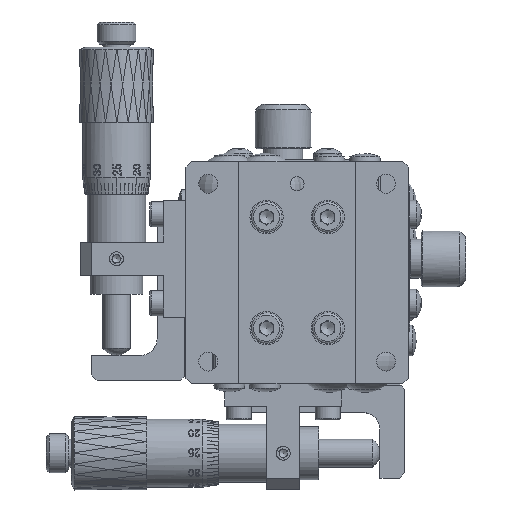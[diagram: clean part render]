
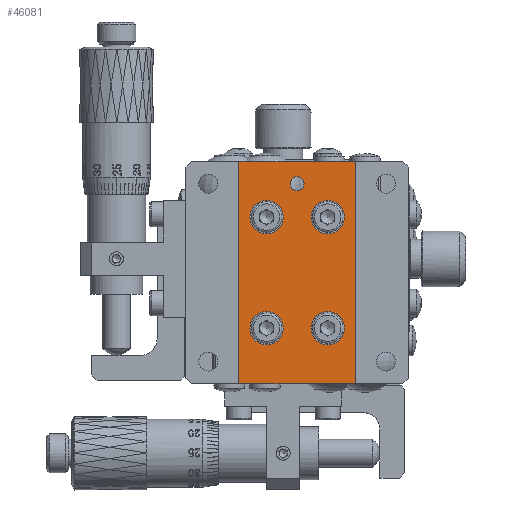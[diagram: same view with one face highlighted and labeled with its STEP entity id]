
A CAD part, front view. The second image highlights one B-rep face of the part: STEP entity #46081.
In plain terms, the highlighted planar face has unit normal (0, -1, 0).
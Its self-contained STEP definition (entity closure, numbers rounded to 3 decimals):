
#228 = EDGE_LOOP ( 'NONE', ( #92351 ) ) ;
#3517 = EDGE_LOOP ( 'NONE', ( #13795 ) ) ;
#5240 = CARTESIAN_POINT ( 'NONE',  ( 14.5, 0.5, 30. ) ) ;
#5361 = DIRECTION ( 'NONE',  ( 0., 0., 1. ) ) ;
#7065 = FACE_BOUND ( 'NONE', #119558, .T. ) ;
#10696 = DIRECTION ( 'NONE',  ( -1., 0., 0. ) ) ;
#12234 = EDGE_CURVE ( 'NONE', #126228, #126228, #91768, .T. ) ;
#13315 = CARTESIAN_POINT ( 'NONE',  ( 9.5, 0.5, 40. ) ) ;
#13795 = ORIENTED_EDGE ( 'NONE', *, *, #58195, .F. ) ;
#15383 = VERTEX_POINT ( 'NONE', #53801 ) ;
#16273 = VERTEX_POINT ( 'NONE', #91118 ) ;
#16644 = EDGE_LOOP ( 'NONE', ( #140735 ) ) ;
#19356 = CARTESIAN_POINT ( 'NONE',  ( 20., 0.5, 36. ) ) ;
#21516 = VECTOR ( 'NONE', #5361, 1000. ) ;
#24225 = CARTESIAN_POINT ( 'NONE',  ( 25.5, 0.5, 10. ) ) ;
#24318 = CIRCLE ( 'NONE', #99371, 3. ) ;
#25341 = LINE ( 'NONE', #101722, #26801 ) ;
#26801 = VECTOR ( 'NONE', #10696, 1000. ) ;
#27525 = EDGE_CURVE ( 'NONE', #15383, #61128, #132302, .T. ) ;
#27999 = DIRECTION ( 'NONE',  ( 0., 0., 1. ) ) ;
#29158 = DIRECTION ( 'NONE',  ( 0., 1., 0. ) ) ;
#29280 = VERTEX_POINT ( 'NONE', #74050 ) ;
#31129 = DIRECTION ( 'NONE',  ( 0., 1., 0. ) ) ;
#31715 = CARTESIAN_POINT ( 'NONE',  ( 9.5, 0.5, 0. ) ) ;
#38106 = CARTESIAN_POINT ( 'NONE',  ( 14.5, 0.5, 33. ) ) ;
#40880 = FACE_BOUND ( 'NONE', #73631, .T. ) ;
#41583 = FACE_BOUND ( 'NONE', #3517, .T. ) ;
#43556 = CARTESIAN_POINT ( 'NONE',  ( 9.5, 0.5, 40. ) ) ;
#43754 = EDGE_CURVE ( 'NONE', #44070, #16273, #118442, .T. ) ;
#44070 = VERTEX_POINT ( 'NONE', #95463 ) ;
#45660 = DIRECTION ( 'NONE',  ( -1., 0., 0. ) ) ;
#45916 = ORIENTED_EDGE ( 'NONE', *, *, #43754, .T. ) ;
#46081 = ADVANCED_FACE ( 'NONE', ( #7065, #61455, #41583, #84932, #40880, #51859 ), #129755, .F. ) ;
#46318 = ORIENTED_EDGE ( 'NONE', *, *, #140817, .F. ) ;
#46628 = CIRCLE ( 'NONE', #114688, 1.25 ) ;
#50411 = CARTESIAN_POINT ( 'NONE',  ( 9.5, 0.5, 0. ) ) ;
#51809 = CARTESIAN_POINT ( 'NONE',  ( 20., 0.5, 37.25 ) ) ;
#51859 = FACE_BOUND ( 'NONE', #228, .T. ) ;
#51979 = VECTOR ( 'NONE', #45660, 1000. ) ;
#53801 = CARTESIAN_POINT ( 'NONE',  ( 9.5, 0.5, 0. ) ) ;
#57124 = AXIS2_PLACEMENT_3D ( 'NONE', #97531, #143049, #142331 ) ;
#58195 = EDGE_CURVE ( 'NONE', #102185, #102185, #129799, .T. ) ;
#59076 = EDGE_CURVE ( 'NONE', #61752, #61752, #24318, .T. ) ;
#61031 = CIRCLE ( 'NONE', #117335, 3. ) ;
#61128 = VERTEX_POINT ( 'NONE', #43556 ) ;
#61455 = FACE_BOUND ( 'NONE', #16644, .T. ) ;
#61752 = VERTEX_POINT ( 'NONE', #72051 ) ;
#65643 = AXIS2_PLACEMENT_3D ( 'NONE', #5240, #139620, #27999 ) ;
#68039 = AXIS2_PLACEMENT_3D ( 'NONE', #50411, #29158, #116551 ) ;
#72051 = CARTESIAN_POINT ( 'NONE',  ( 14.5, 0.5, 13. ) ) ;
#73631 = EDGE_LOOP ( 'NONE', ( #77489 ) ) ;
#74050 = CARTESIAN_POINT ( 'NONE',  ( 25.5, 0.5, 13. ) ) ;
#76467 = DIRECTION ( 'NONE',  ( 0., 0., 1. ) ) ;
#77489 = ORIENTED_EDGE ( 'NONE', *, *, #98445, .F. ) ;
#81456 = DIRECTION ( 'NONE',  ( 0., -1., 0. ) ) ;
#84932 = FACE_OUTER_BOUND ( 'NONE', #134544, .T. ) ;
#85361 = CARTESIAN_POINT ( 'NONE',  ( 30.5, 0.5, 0. ) ) ;
#91118 = CARTESIAN_POINT ( 'NONE',  ( 30.5, 0.5, 40. ) ) ;
#91768 = CIRCLE ( 'NONE', #65643, 3. ) ;
#92351 = ORIENTED_EDGE ( 'NONE', *, *, #12234, .F. ) ;
#95463 = CARTESIAN_POINT ( 'NONE',  ( 30.5, 0.5, 0. ) ) ;
#97531 = CARTESIAN_POINT ( 'NONE',  ( 25.5, 0.5, 30. ) ) ;
#98445 = EDGE_CURVE ( 'NONE', #29280, #29280, #61031, .T. ) ;
#99371 = AXIS2_PLACEMENT_3D ( 'NONE', #123240, #113654, #135666 ) ;
#100716 = CARTESIAN_POINT ( 'NONE',  ( 25.5, 0.5, 33. ) ) ;
#101722 = CARTESIAN_POINT ( 'NONE',  ( 9.5, 0.5, 0. ) ) ;
#102185 = VERTEX_POINT ( 'NONE', #100716 ) ;
#106330 = EDGE_CURVE ( 'NONE', #16273, #61128, #111750, .T. ) ;
#111750 = LINE ( 'NONE', #13315, #51979 ) ;
#113654 = DIRECTION ( 'NONE',  ( 0., -1., 0. ) ) ;
#114688 = AXIS2_PLACEMENT_3D ( 'NONE', #19356, #31129, #141992 ) ;
#114957 = EDGE_CURVE ( 'NONE', #139962, #139962, #46628, .T. ) ;
#116551 = DIRECTION ( 'NONE',  ( 0., 0., 1. ) ) ;
#117335 = AXIS2_PLACEMENT_3D ( 'NONE', #24225, #81456, #145396 ) ;
#118442 = LINE ( 'NONE', #85361, #21516 ) ;
#119479 = VECTOR ( 'NONE', #76467, 1000. ) ;
#119558 = EDGE_LOOP ( 'NONE', ( #121864 ) ) ;
#121864 = ORIENTED_EDGE ( 'NONE', *, *, #114957, .T. ) ;
#123240 = CARTESIAN_POINT ( 'NONE',  ( 14.5, 0.5, 10. ) ) ;
#123309 = ORIENTED_EDGE ( 'NONE', *, *, #27525, .F. ) ;
#126228 = VERTEX_POINT ( 'NONE', #38106 ) ;
#129755 = PLANE ( 'NONE',  #68039 ) ;
#129799 = CIRCLE ( 'NONE', #57124, 3. ) ;
#132302 = LINE ( 'NONE', #31715, #119479 ) ;
#134544 = EDGE_LOOP ( 'NONE', ( #135743, #123309, #46318, #45916 ) ) ;
#135666 = DIRECTION ( 'NONE',  ( 0., 0., 1. ) ) ;
#135743 = ORIENTED_EDGE ( 'NONE', *, *, #106330, .T. ) ;
#139620 = DIRECTION ( 'NONE',  ( 0., -1., 0. ) ) ;
#139962 = VERTEX_POINT ( 'NONE', #51809 ) ;
#140735 = ORIENTED_EDGE ( 'NONE', *, *, #59076, .F. ) ;
#140817 = EDGE_CURVE ( 'NONE', #44070, #15383, #25341, .T. ) ;
#141992 = DIRECTION ( 'NONE',  ( 0., 0., 1. ) ) ;
#142331 = DIRECTION ( 'NONE',  ( 0., 0., 1. ) ) ;
#143049 = DIRECTION ( 'NONE',  ( 0., -1., 0. ) ) ;
#145396 = DIRECTION ( 'NONE',  ( 0., 0., 1. ) ) ;
